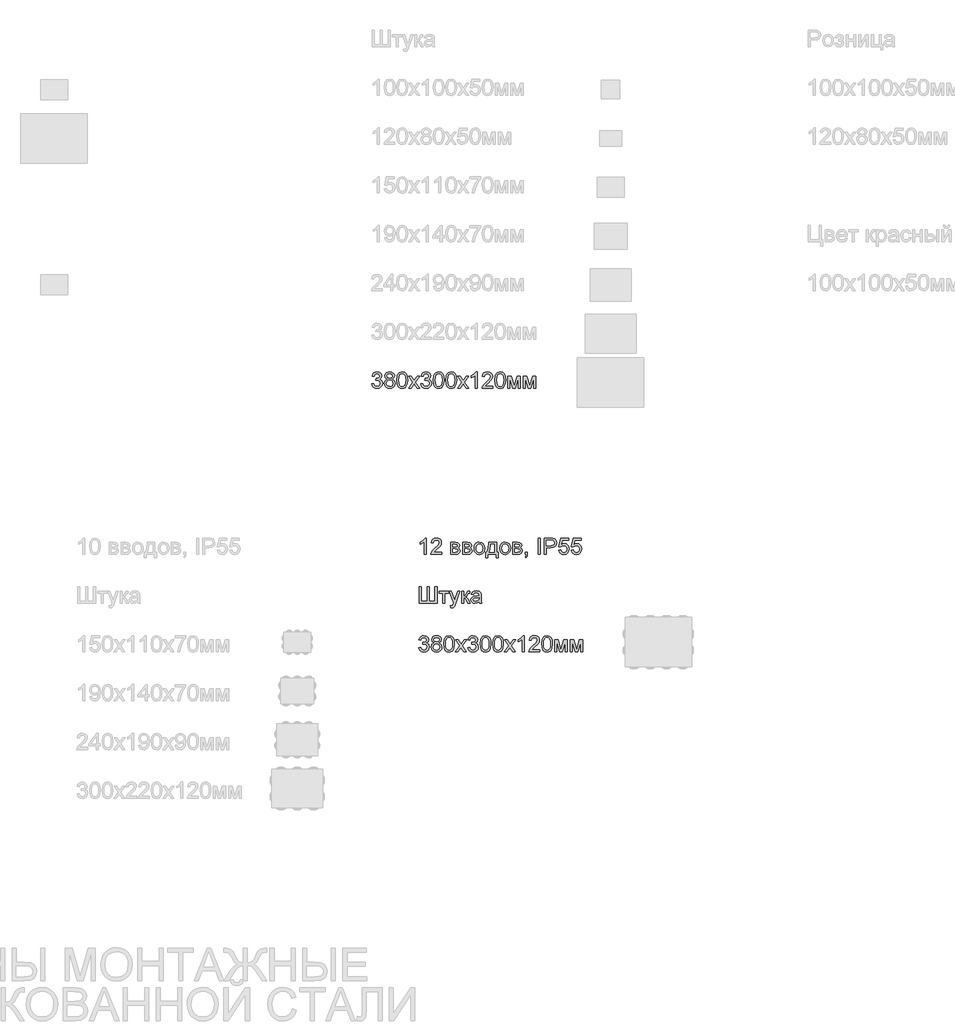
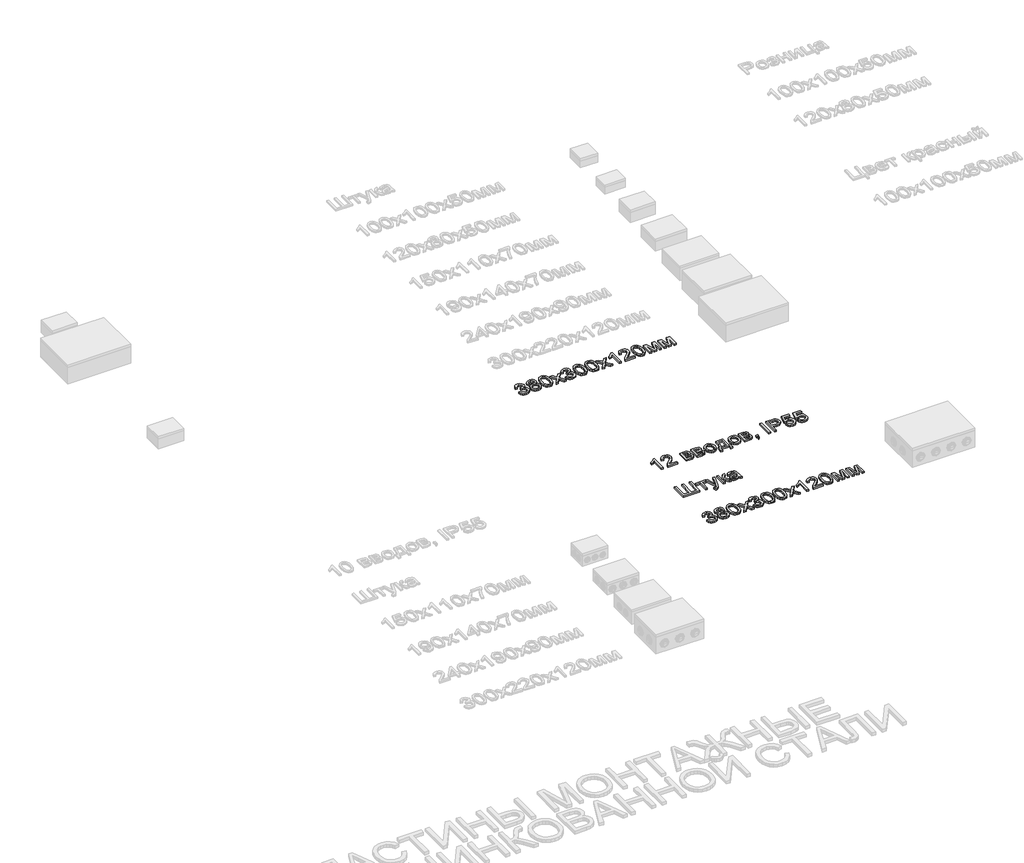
# One storey, part 27 of 98: 4 proxies.
"""IFC4 building model written with IfcOpenShell, lengths in millimetres."""

from ifc_helpers import new_model, si_unit, origin, origin_with_axes, place, context, project, spatial, polyline, outline, extrude, element, save

model = new_model("IFC4")

# Units and contexts
model_context = context("Model", 3, world=origin())
ifc_project = project(units=[si_unit("LENGTHUNIT", "METRE", prefix="MILLI")], contexts=[model_context])

# Site, building, storey
site = spatial("IfcSite", under=ifc_project)
building = spatial("IfcBuilding", under=site)
storey = spatial("IfcBuildingStorey", under=building, Name="Этаж 01", Elevation=0.0)

# Proxies
placement = place(None, origin())
element("IfcBuildingElementProxy", 1, Name="100", ObjectType="100", at=placement, inside=storey, context=model_context, shape_type="SweptSolid", body=[
    extrude(outline(polyline([(11962.3805285, -44110.8536412), (11974.9375673, -44109.2840114), (11981.8660115, -44122.5032377), (11994.8277205, -44126.5499397), (12003.4361592, -44125.1581195), (12010.0825605, -44120.9826588), (12015.7479433, -44107.1993467), (12010.1316115, -44094.2131123), (11995.8577901, -44089.0750271), (11987.0531476, -44090.4484532), (11988.4510992, -44077.8914145), (11990.4621875, -44078.0385673), (12004.7114834, -44074.4333237), (12009.4571612, -44069.8593242), (12011.0390537, -44063.3478129), (12006.4527915, -44053.5253636), (11994.6315167, -44049.6380772), (11982.6630892, -44053.5621518), (11976.5071971, -44065.3343757), (11963.9501584, -44063.7647458), (11967.6473724, -44052.4891627), (11974.2263288, -44044.0707964), (11983.2271749, -44038.8284779), (11994.1900584, -44037.0810385), (12009.3345338, -44040.5268665), (12019.9295353, -44049.9446456), (12023.5960925, -44062.6120489), (12020.1134763, -44074.188069), (12009.8127804, -44082.5022021), (12023.4979906, -44091.0861154), (12028.304982, -44107.4200759), (12025.9014863, -44119.6582836), (12018.6909992, -44129.8854031), (12007.8078235, -44136.8015846), (11994.3862621, -44139.1069785), (11982.2461562, -44137.1388098), (11972.3623933, -44131.2343038), (11965.4891314, -44122.2028008), (11962.3805285, -44110.8536412)])), origin_with_axes(), (0.0, 0.0, 1.0), 10.0),
    extrude(outline(polyline([(12057.5883889, -44082.2078965), (12046.1472588, -44074.4087982), (12042.4316507, -44062.2686924), (12044.4550016, -44052.4523745), (12050.5250546, -44044.3405765), (12059.9612277, -44038.895923), (12072.0829395, -44037.0810385), (12084.2782276, -44038.9388425), (12093.8370281, -44044.5122548), (12100.0174456, -44052.7528115), (12102.0775848, -44062.6120489), (12098.4110276, -44074.4455864), (12087.2887286, -44082.2078965), (12100.642845, -44092.0548713), (12105.2168445, -44108.3029927), (12102.9482389, -44120.3082085), (12096.142422, -44130.2287596), (12085.6332596, -44136.8874238), (12072.2546177, -44139.1069785), (12058.8759758, -44136.8782267), (12048.3668135, -44130.1919714), (12041.5609966, -44120.1763841), (12039.292391, -44107.9596362), (12044.0503314, -44091.33137), (12057.5883889, -44082.2078965)]), holes=[polyline([(12054.9886894, -44062.6365744), (12059.4400616, -44072.4958119), (12072.4017705, -44076.3217846), (12085.1059621, -44072.5203373), (12089.520546, -44063.2006601), (12084.9588093, -44053.5498891), (12072.2546177, -44049.6380772), (12059.513638, -44053.46405), (12054.9886894, -44062.6365744)]), polyline([(12051.8494297, -44107.5181778), (12053.9463571, -44116.9727451), (12061.3653107, -44124.0483421), (12072.3527196, -44126.5499397), (12080.8998446, -44125.2347616), (12087.3132541, -44121.2892272), (12092.6598057, -44107.9105853), (12087.1415758, -44094.274426), (12080.5810136, -44090.227724), (12071.9357867, -44088.8788234), (12063.5082233, -44090.2093299), (12057.1591932, -44094.2008496), (12051.8494297, -44107.5181778)])]), origin_with_axes(), (0.0, 0.0, 1.0), 10.0),
    extrude(outline(polyline([(12116.2042534, -44088.1185339), (12119.8953361, -44059.2152718), (12130.8582196, -44042.5502175), (12149.1664802, -44037.0810385), (12163.8327091, -44040.3184), (12173.9617267, -44049.65034), (12179.8478386, -44064.5127726), (12182.128707, -44088.1185339), (12178.4744125, -44116.8991687), (12167.5483172, -44133.6010113), (12159.3169576, -44137.7304867), (12149.1664802, -44139.1069785), (12136.1189321, -44136.7157455), (12126.2106437, -44129.5420466), (12118.705851, -44112.5520298), (12116.2042534, -44088.1185339)]), holes=[polyline([(12128.7612922, -44088.0940085), (12130.2328202, -44107.8462059), (12134.6474041, -44119.2781389), (12141.2202291, -44124.7319895), (12149.1664802, -44126.5499397), (12157.1127313, -44124.7258581), (12163.6855563, -44119.2536135), (12168.1001402, -44107.8155491), (12169.5716682, -44088.0940085), (12168.1491911, -44068.7863351), (12163.88176, -44057.2654973), (12157.3211978, -44051.5449322), (12149.0193274, -44049.6380772), (12141.1589154, -44051.3180717), (12134.8436078, -44056.358055), (12130.2818711, -44068.5962627), (12128.7612922, -44088.0940085)])]), origin_with_axes(), (0.0, 0.0, 1.0), 10.0),
    extrude(outline(polyline([(12188.4072263, -44137.5373486), (12215.2380865, -44100.4548435), (12189.9768562, -44063.7647458), (12205.0845435, -44063.7647458), (12217.2737002, -44081.4230816), (12222.9636084, -44089.7617402), (12227.8932272, -44082.9436605), (12241.7746411, -44063.7647458), (12256.8823284, -44063.7647458), (12230.3457738, -44100.4548435), (12255.9013097, -44137.5373486), (12240.7936225, -44137.5373486), (12225.4161551, -44115.2436997), (12222.5957264, -44111.1724723), (12203.5149136, -44137.5373486), (12188.4072263, -44137.5373486)])), origin_with_axes(), (0.0, 0.0, 1.0), 10.0),
    extrude(outline(polyline([(12263.749459, -44110.8536412), (12276.3064977, -44109.2840114), (12283.234942, -44122.5032377), (12296.1966509, -44126.5499397), (12304.8050896, -44125.1581195), (12311.451491, -44120.9826588), (12317.1168737, -44107.1993467), (12311.5005419, -44094.2131123), (12297.2267205, -44089.0750271), (12288.4220781, -44090.4484532), (12289.8200297, -44077.8914145), (12291.8311179, -44078.0385673), (12306.0804139, -44074.4333237), (12310.8260916, -44069.8593242), (12312.4079842, -44063.3478129), (12307.821722, -44053.5253636), (12296.0004472, -44049.6380772), (12284.0320196, -44053.5621518), (12277.8761276, -44065.3343757), (12265.3190888, -44063.7647458), (12269.0163029, -44052.4891627), (12275.5952592, -44044.0707964), (12284.5961053, -44038.8284779), (12295.5589888, -44037.0810385), (12310.7034643, -44040.5268665), (12321.2984657, -44049.9446456), (12324.965023, -44062.6120489), (12321.4824067, -44074.188069), (12311.1817109, -44082.5022021), (12324.8669211, -44091.0861154), (12329.6739125, -44107.4200759), (12327.2704168, -44119.6582836), (12320.0599297, -44129.8854031), (12309.176754, -44136.8015846), (12295.7551925, -44139.1069785), (12283.6150867, -44137.1388098), (12273.7313238, -44131.2343038), (12266.8580618, -44122.2028008), (12263.749459, -44110.8536412)])), origin_with_axes(), (0.0, 0.0, 1.0), 10.0),
    extrude(outline(polyline([(12340.6613214, -44088.1185339), (12344.3524041, -44059.2152718), (12355.3152876, -44042.5502175), (12373.6235482, -44037.0810385), (12388.2897771, -44040.3184), (12398.4187947, -44049.65034), (12404.3049066, -44064.5127726), (12406.5857749, -44088.1185339), (12402.9314805, -44116.8991687), (12392.0053852, -44133.6010113), (12383.7740256, -44137.7304867), (12373.6235482, -44139.1069785), (12360.5760001, -44136.7157455), (12350.6677117, -44129.5420466), (12343.162919, -44112.5520298), (12340.6613214, -44088.1185339)]), holes=[polyline([(12353.2183602, -44088.0940085), (12354.6898882, -44107.8462059), (12359.1044721, -44119.2781389), (12365.6772971, -44124.7319895), (12373.6235482, -44126.5499397), (12381.5697993, -44124.7258581), (12388.1426243, -44119.2536135), (12392.5572082, -44107.8155491), (12394.0287362, -44088.0940085), (12392.6062591, -44068.7863351), (12388.338828, -44057.2654973), (12381.7782657, -44051.5449322), (12373.4763954, -44049.6380772), (12365.6159834, -44051.3180717), (12359.3006758, -44056.358055), (12354.7389391, -44068.5962627), (12353.2183602, -44088.0940085)])]), origin_with_axes(), (0.0, 0.0, 1.0), 10.0),
    extrude(outline(polyline([(12417.5731839, -44088.1185339), (12421.2642666, -44059.2152718), (12432.22715, -44042.5502175), (12450.5354106, -44037.0810385), (12465.2016395, -44040.3184), (12475.3306571, -44049.65034), (12481.216769, -44064.5127726), (12483.4976374, -44088.1185339), (12479.8433429, -44116.8991687), (12468.9172477, -44133.6010113), (12460.685888, -44137.7304867), (12450.5354106, -44139.1069785), (12437.4878625, -44136.7157455), (12427.5795741, -44129.5420466), (12420.0747814, -44112.5520298), (12417.5731839, -44088.1185339)]), holes=[polyline([(12430.1302226, -44088.0940085), (12431.6017506, -44107.8462059), (12436.0163346, -44119.2781389), (12442.5891595, -44124.7319895), (12450.5354106, -44126.5499397), (12458.4816617, -44124.7258581), (12465.0544867, -44119.2536135), (12469.4690707, -44107.8155491), (12470.9405986, -44088.0940085), (12469.5181216, -44068.7863351), (12465.2506904, -44057.2654973), (12458.6901282, -44051.5449322), (12450.3882578, -44049.6380772), (12442.5278459, -44051.3180717), (12436.2125383, -44056.358055), (12431.6508016, -44068.5962627), (12430.1302226, -44088.0940085)])]), origin_with_axes(), (0.0, 0.0, 1.0), 10.0),
    extrude(outline(polyline([(12489.7761568, -44137.5373486), (12516.607017, -44100.4548435), (12491.3457866, -44063.7647458), (12506.4534739, -44063.7647458), (12518.6426307, -44081.4230816), (12524.3325389, -44089.7617402), (12529.2621576, -44082.9436605), (12543.1435716, -44063.7647458), (12558.2512588, -44063.7647458), (12531.7147042, -44100.4548435), (12557.2702402, -44137.5373486), (12542.1625529, -44137.5373486), (12526.7850855, -44115.2436997), (12523.9646569, -44111.1724723), (12504.8838441, -44137.5373486), (12489.7761568, -44137.5373486)])), origin_with_axes(), (0.0, 0.0, 1.0), 10.0),
    extrude(outline(polyline([(12612.2072848, -44137.5373486), (12599.650246, -44137.5373486), (12599.650246, -44059.25206), (12587.7553948, -44067.7256087), (12574.5361685, -44074.0654417), (12574.5361685, -44062.195116), (12592.942531, -44050.4474176), (12604.1138809, -44037.0810385), (12612.2072848, -44037.0810385), (12612.2072848, -44137.5373486)])), origin_with_axes(), (0.0, 0.0, 1.0), 10.0),
    extrude(outline(polyline([(12706.3850756, -44124.9803098), (12706.3850756, -44137.5373486), (12640.460622, -44137.5373486), (12641.8095227, -44128.879859), (12649.4369427, -44115.550268), (12665.1577666, -44100.9944038), (12686.8382789, -44080.074181), (12692.2584069, -44065.8494105), (12687.1448472, -44054.334704), (12673.7907308, -44049.6380772), (12659.8725286, -44054.2243394), (12654.5872906, -44066.9040055), (12642.0302519, -44065.3343757), (12645.0744754, -44053.1881385), (12651.6564974, -44044.316051), (12661.4329614, -44038.8897916), (12674.0605109, -44037.0810385), (12686.7800309, -44039.0921267), (12696.5381008, -44045.1253914), (12702.7461095, -44054.1385003), (12704.8154457, -44065.089121), (12702.5836283, -44076.9962349), (12695.1646747, -44089.308019), (12677.1752451, -44106.5126337), (12662.7297455, -44118.5914259), (12657.0643627, -44124.9803098), (12706.3850756, -44124.9803098)])), origin_with_axes(), (0.0, 0.0, 1.0), 10.0),
    extrude(outline(polyline([(12718.9421143, -44088.1185339), (12722.633197, -44059.2152718), (12733.5960805, -44042.5502175), (12751.9043411, -44037.0810385), (12766.57057, -44040.3184), (12776.6995876, -44049.65034), (12782.5856995, -44064.5127726), (12784.8665679, -44088.1185339), (12781.2122734, -44116.8991687), (12770.2861781, -44133.6010113), (12762.0548185, -44137.7304867), (12751.9043411, -44139.1069785), (12738.856793, -44136.7157455), (12728.9485046, -44129.5420466), (12721.4437119, -44112.5520298), (12718.9421143, -44088.1185339)]), holes=[polyline([(12731.4991531, -44088.0940085), (12732.9706811, -44107.8462059), (12737.385265, -44119.2781389), (12743.95809, -44124.7319895), (12751.9043411, -44126.5499397), (12759.8505922, -44124.7258581), (12766.4234172, -44119.2536135), (12770.8380011, -44107.8155491), (12772.3095291, -44088.0940085), (12770.887052, -44068.7863351), (12766.6196209, -44057.2654973), (12760.0590586, -44051.5449322), (12751.7571883, -44049.6380772), (12743.8967763, -44051.3180717), (12737.5814687, -44056.358055), (12733.019732, -44068.5962627), (12731.4991531, -44088.0940085)])]), origin_with_axes(), (0.0, 0.0, 1.0), 10.0),
    extrude(outline(polyline([(12798.9932365, -44063.7647458), (12820.6001723, -44063.7647458), (12837.252964, -44122.8220688), (12855.2056053, -44063.7647458), (12875.9050989, -44063.7647458), (12875.9050989, -44137.5373486), (12863.3480602, -44137.5373486), (12863.3480602, -44078.1366691), (12845.2973169, -44137.5373486), (12828.8162035, -44137.5373486), (12811.5502752, -44075.291715), (12811.5502752, -44137.5373486), (12798.9932365, -44137.5373486), (12798.9932365, -44063.7647458)])), origin_with_axes(), (0.0, 0.0, 1.0), 10.0),
    extrude(outline(polyline([(12894.7406571, -44063.7647458), (12916.3475929, -44063.7647458), (12933.0003846, -44122.8220688), (12950.9530259, -44063.7647458), (12971.6525195, -44063.7647458), (12971.6525195, -44137.5373486), (12959.0954808, -44137.5373486), (12959.0954808, -44078.1366691), (12941.0447375, -44137.5373486), (12924.5636242, -44137.5373486), (12907.2976959, -44075.291715), (12907.2976959, -44137.5373486), (12894.7406571, -44137.5373486), (12894.7406571, -44063.7647458)])), origin_with_axes(), (0.0, 0.0, 1.0), 10.0),
])
element("IfcBuildingElementProxy", 2, Name="100", ObjectType="100", at=placement, inside=storey, context=model_context, shape_type="SweptSolid", body=[
    extrude(outline(polyline([(12297.5391141, -45159.5121665), (12284.9820753, -45159.5121665), (12284.9820753, -45081.2268779), (12273.0872241, -45089.7004265), (12259.8679978, -45096.0402596), (12259.8679978, -45084.1699338), (12278.2743603, -45072.4222355), (12289.4457102, -45059.0558563), (12297.5391141, -45059.0558563), (12297.5391141, -45159.5121665)])), origin_with_axes(), (0.0, 0.0, 1.0), 10.0),
    extrude(outline(polyline([(12391.7169049, -45146.9551277), (12391.7169049, -45159.5121665), (12325.7924513, -45159.5121665), (12327.141352, -45150.8546768), (12334.768772, -45137.5250859), (12350.4895959, -45122.9692216), (12372.1701082, -45102.0489988), (12377.5902362, -45087.8242283), (12372.4766765, -45076.3095219), (12359.1225601, -45071.6128951), (12345.2043579, -45076.1991573), (12339.9191199, -45088.8788234), (12327.3620812, -45087.3091935), (12330.4063047, -45075.1629563), (12336.9883267, -45066.2908689), (12346.7647907, -45060.8646095), (12359.3923402, -45059.0558563), (12372.1118602, -45061.0669445), (12381.8699301, -45067.1002093), (12388.0779388, -45076.1133182), (12390.147275, -45087.0639389), (12387.9154576, -45098.9710528), (12380.496504, -45111.2828369), (12362.5070744, -45128.4874515), (12348.0615748, -45140.5662437), (12342.396192, -45146.9551277), (12391.7169049, -45146.9551277)])), origin_with_axes(), (0.0, 0.0, 1.0), 10.0),
    extrude(outline(polyline([(12446.6539495, -45085.7395637), (12474.3186755, -45085.7395637), (12489.4876764, -45087.4195581), (12498.0225387, -45093.5754502), (12501.5909941, -45104.3053417), (12499.432753, -45113.024145), (12492.9335045, -45119.2413507), (12501.3702649, -45126.0471676), (12504.7302538, -45137.8807051), (12502.6026696, -45147.4517684), (12497.5442921, -45154.1901403), (12489.5367274, -45158.1816599), (12478.5615812, -45159.5121665), (12446.6539495, -45159.5121665), (12446.6539495, -45085.7395637)]), holes=[polyline([(12459.2109882, -45146.9551277), (12474.6129811, -45146.9551277), (12488.2736659, -45144.6865221), (12492.173215, -45136.8506356), (12490.0272367, -45130.8051081), (12484.4354304, -45127.2857037), (12473.3867078, -45126.5499397), (12459.2109882, -45126.5499397), (12459.2109882, -45146.9551277)]), polyline([(12459.2109882, -45113.9929009), (12471.6208742, -45113.9929009), (12481.8602564, -45113.3552388), (12486.8389261, -45110.8045903), (12489.0339553, -45106.1938026), (12485.1834571, -45100.0379106), (12472.0132817, -45098.2966025), (12459.2109882, -45098.2966025), (12459.2109882, -45113.9929009)])]), origin_with_axes(), (0.0, 0.0, 1.0), 10.0),
    extrude(outline(polyline([(12520.4265522, -45085.7395637), (12548.0912783, -45085.7395637), (12563.2602792, -45087.4195581), (12571.7951415, -45093.5754502), (12575.3635968, -45104.3053417), (12573.2053558, -45113.024145), (12566.7061072, -45119.2413507), (12575.1428677, -45126.0471676), (12578.5028565, -45137.8807051), (12576.3752723, -45147.4517684), (12571.3168949, -45154.1901403), (12563.3093301, -45158.1816599), (12552.334184, -45159.5121665), (12520.4265522, -45159.5121665), (12520.4265522, -45085.7395637)]), holes=[polyline([(12532.983591, -45146.9551277), (12548.3855839, -45146.9551277), (12562.0462686, -45144.6865221), (12565.9458178, -45136.8506356), (12563.7998395, -45130.8051081), (12558.2080331, -45127.2857037), (12547.1593106, -45126.5499397), (12532.983591, -45126.5499397), (12532.983591, -45146.9551277)]), polyline([(12532.983591, -45113.9929009), (12545.393477, -45113.9929009), (12555.6328592, -45113.3552388), (12560.6115288, -45110.8045903), (12562.8065581, -45106.1938026), (12558.9560599, -45100.0379106), (12545.7858844, -45098.2966025), (12532.983591, -45098.2966025), (12532.983591, -45113.9929009)])]), origin_with_axes(), (0.0, 0.0, 1.0), 10.0),
    extrude(outline(polyline([(12591.0598953, -45122.6258651), (12593.7760907, -45104.8387706), (12601.9246769, -45092.3369141), (12611.9923808, -45086.2116789), (12624.0466475, -45084.1699338), (12637.2382828, -45086.656203), (12647.7750362, -45094.1150104), (12654.6820207, -45105.957745), (12656.9843488, -45121.5957955), (12652.9131214, -45143.9384953), (12641.0550585, -45156.5813732), (12624.0466475, -45161.0817963), (12610.6955968, -45158.6047242), (12600.1711061, -45151.1735079), (12593.337698, -45139.082453), (12591.0598953, -45122.6258651)]), holes=[polyline([(12603.6169341, -45122.6013396), (12605.070068, -45133.9658276), (12609.4294696, -45142.0622972), (12615.9900318, -45146.9091424), (12624.0466475, -45148.5247575), (12632.066475, -45146.8999454), (12638.6147746, -45142.025509), (12642.9741762, -45133.8217405), (12644.4273101, -45122.2089321), (12642.9649791, -45111.175538), (12638.5779864, -45103.189433), (12632.0204898, -45098.3425877), (12624.0466475, -45096.7269726), (12615.9900318, -45098.3364563), (12609.4294696, -45103.1649075), (12605.070068, -45111.242983), (12603.6169341, -45122.6013396)])]), origin_with_axes(), (0.0, 0.0, 1.0), 10.0),
    extrude(outline(polyline([(12682.0984264, -45085.7395637), (12729.1873218, -45085.7395637), (12729.1873218, -45146.9551277), (12738.6051008, -45146.9551277), (12738.6051008, -45179.9173545), (12726.0480621, -45179.9173545), (12726.0480621, -45159.5121665), (12674.2502772, -45159.5121665), (12674.2502772, -45179.9173545), (12661.6932384, -45179.9173545), (12661.6932384, -45146.9551277), (12669.5413876, -45146.9551277), (12679.2412096, -45123.0060098), (12682.0984264, -45085.7395637)]), holes=[polyline([(12693.0858353, -45098.2966025), (12690.1427793, -45126.905559), (12683.6680562, -45146.9551277), (12716.630283, -45146.9551277), (12716.630283, -45098.2966025), (12693.0858353, -45098.2966025)])]), origin_with_axes(), (0.0, 0.0, 1.0), 10.0),
    extrude(outline(polyline([(12749.5925098, -45122.6258651), (12752.3087052, -45104.8387706), (12760.4572914, -45092.3369141), (12770.5249953, -45086.2116789), (12782.579262, -45084.1699338), (12795.7708972, -45086.656203), (12806.3076507, -45094.1150104), (12813.2146351, -45105.957745), (12815.5169633, -45121.5957955), (12811.4457359, -45143.9384953), (12799.5876729, -45156.5813732), (12782.579262, -45161.0817963), (12769.2282113, -45158.6047242), (12758.7037205, -45151.1735079), (12751.8703125, -45139.082453), (12749.5925098, -45122.6258651)]), holes=[polyline([(12762.1495485, -45122.6013396), (12763.6026824, -45133.9658276), (12767.9620841, -45142.0622972), (12774.5226463, -45146.9091424), (12782.579262, -45148.5247575), (12790.5990895, -45146.8999454), (12797.147389, -45142.025509), (12801.5067907, -45133.8217405), (12802.9599245, -45122.2089321), (12801.4975936, -45111.175538), (12797.1106008, -45103.189433), (12790.5531042, -45098.3425877), (12782.579262, -45096.7269726), (12774.5226463, -45098.3364563), (12767.9620841, -45103.1649075), (12763.6026824, -45111.242983), (12762.1495485, -45122.6013396)])]), origin_with_axes(), (0.0, 0.0, 1.0), 10.0),
    extrude(outline(polyline([(12829.6436319, -45085.7395637), (12857.308358, -45085.7395637), (12872.4773589, -45087.4195581), (12881.0122212, -45093.5754502), (12884.5806765, -45104.3053417), (12882.4224355, -45113.024145), (12875.9231869, -45119.2413507), (12884.3599473, -45126.0471676), (12887.7199362, -45137.8807051), (12885.592352, -45147.4517684), (12880.5339746, -45154.1901403), (12872.5264098, -45158.1816599), (12861.5512636, -45159.5121665), (12829.6436319, -45159.5121665), (12829.6436319, -45085.7395637)]), holes=[polyline([(12842.2006707, -45146.9551277), (12857.6026635, -45146.9551277), (12871.2633483, -45144.6865221), (12875.1628975, -45136.8506356), (12873.0169191, -45130.8051081), (12867.4251128, -45127.2857037), (12856.3763902, -45126.5499397), (12842.2006707, -45126.5499397), (12842.2006707, -45146.9551277)]), polyline([(12842.2006707, -45113.9929009), (12854.6105567, -45113.9929009), (12864.8499389, -45113.3552388), (12869.8286085, -45110.8045903), (12872.0236378, -45106.1938026), (12868.1731395, -45100.0379106), (12855.0029641, -45098.2966025), (12842.2006707, -45098.2966025), (12842.2006707, -45113.9929009)])]), origin_with_axes(), (0.0, 0.0, 1.0), 10.0),
    extrude(outline(polyline([(12906.5554944, -45159.5121665), (12906.5554944, -45146.9551277), (12919.1125331, -45146.9551277), (12919.1125331, -45159.5121665), (12916.8561902, -45172.3512481), (12909.6947541, -45179.9173545), (12906.5554944, -45175.2084649), (12911.166282, -45169.7883369), (12912.8094883, -45159.5121665), (12906.5554944, -45159.5121665)])), origin_with_axes(), (0.0, 0.0, 1.0), 10.0),
    extrude(outline(polyline([(12985.0369867, -45159.5121665), (12985.0369867, -45059.0558563), (12997.5940254, -45059.0558563), (12997.5940254, -45159.5121665), (12985.0369867, -45159.5121665)])), origin_with_axes(), (0.0, 0.0, 1.0), 10.0),
    extrude(outline(polyline([(13022.708103, -45159.5121665), (13022.708103, -45059.0558563), (13059.9377609, -45059.0558563), (13074.9473463, -45060.0123495), (13087.1487658, -45064.7089763), (13095.0582287, -45074.421061), (13098.0503356, -45088.1185339), (13096.0300503, -45099.9582028), (13089.9691944, -45109.8235716), (13078.6353633, -45116.4822358), (13060.7961522, -45118.7017905), (13035.2651418, -45118.7017905), (13035.2651418, -45159.5121665), (13022.708103, -45159.5121665)]), holes=[polyline([(13035.2651418, -45106.1447517), (13061.5319162, -45106.1447517), (13080.0241178, -45101.533964), (13084.1260021, -45095.9850773), (13085.4932968, -45088.5599923), (13082.268198, -45078.1611946), (13073.7946494, -45072.4712864), (13061.2376106, -45071.6128951), (13035.2651418, -45071.6128951), (13035.2651418, -45106.1447517)])]), origin_with_axes(), (0.0, 0.0, 1.0), 10.0),
    extrude(outline(polyline([(13110.6073744, -45132.8284591), (13123.1644131, -45131.2588292), (13129.4919835, -45144.1960127), (13142.6131079, -45148.5247575), (13151.6139541, -45147.019507), (13158.3584573, -45142.5037555), (13162.5707062, -45135.4986692), (13163.9747891, -45126.5254142), (13158.7140766, -45111.6139307), (13152.1075291, -45107.5120464), (13142.8093117, -45106.1447517), (13131.7851146, -45108.3275182), (13124.734043, -45113.9929009), (13112.1770042, -45112.4232711), (13123.1644131, -45060.6254862), (13171.8229384, -45060.6254862), (13171.8229384, -45073.1825249), (13133.3179562, -45073.1825249), (13127.9468791, -45100.847251), (13136.9170684, -45095.4025974), (13146.3164534, -45093.5877129), (13158.0488233, -45095.8379245), (13167.7884991, -45102.5885591), (13174.3459957, -45112.8769922), (13176.5318279, -45125.7405993), (13174.5636592, -45138.2976381), (13168.6591532, -45149.0397923), (13157.3529132, -45158.0712953), (13142.564057, -45161.0817963), (13130.2308131, -45159.1473501), (13120.4052982, -45153.3440117), (13113.669992, -45144.3462312), (13110.6073744, -45132.8284591)])), origin_with_axes(), (0.0, 0.0, 1.0), 10.0),
    extrude(outline(polyline([(13187.5192368, -45132.8284591), (13200.0762756, -45131.2588292), (13206.4038459, -45144.1960127), (13219.5249704, -45148.5247575), (13228.5258166, -45147.019507), (13235.2703198, -45142.5037555), (13239.4825686, -45135.4986692), (13240.8866516, -45126.5254142), (13235.6259391, -45111.6139307), (13229.0193916, -45107.5120464), (13219.7211741, -45106.1447517), (13208.696977, -45108.3275182), (13201.6459054, -45113.9929009), (13189.0888667, -45112.4232711), (13200.0762756, -45060.6254862), (13248.7348008, -45060.6254862), (13248.7348008, -45073.1825249), (13210.2298187, -45073.1825249), (13204.8587415, -45100.847251), (13213.8289308, -45095.4025974), (13223.2283158, -45093.5877129), (13234.9606858, -45095.8379245), (13244.7003616, -45102.5885591), (13251.2578582, -45112.8769922), (13253.4436904, -45125.7405993), (13251.4755217, -45138.2976381), (13245.5710157, -45149.0397923), (13234.2647757, -45158.0712953), (13219.4759195, -45161.0817963), (13207.1426756, -45159.1473501), (13197.3171606, -45153.3440117), (13190.5818544, -45144.3462312), (13187.5192368, -45132.8284591)])), origin_with_axes(), (0.0, 0.0, 1.0), 10.0),
])
element("IfcBuildingElementProxy", 3, Name="100", ObjectType="100", at=placement, inside=storey, context=model_context, shape_type="SweptSolid", body=[
    extrude(outline(polyline([(12253.5894784, -45359.0558563), (12266.1465172, -45359.0558563), (12266.1465172, -45446.9551277), (12302.2480036, -45446.9551277), (12302.2480036, -45359.0558563), (12314.8050424, -45359.0558563), (12314.8050424, -45446.9551277), (12350.9065289, -45446.9551277), (12350.9065289, -45359.0558563), (12363.4635676, -45359.0558563), (12363.4635676, -45459.5121665), (12253.5894784, -45459.5121665), (12253.5894784, -45359.0558563)])), origin_with_axes(), (0.0, 0.0, 1.0), 10.0),
    extrude(outline(polyline([(12376.0206064, -45385.7395637), (12435.6665405, -45385.7395637), (12435.6665405, -45398.2966025), (12412.1220929, -45398.2966025), (12412.1220929, -45459.5121665), (12399.5650541, -45459.5121665), (12399.5650541, -45398.2966025), (12376.0206064, -45398.2966025), (12376.0206064, -45385.7395637)])), origin_with_axes(), (0.0, 0.0, 1.0), 10.0),
    extrude(outline(polyline([(12446.6539495, -45487.7655037), (12445.0843196, -45475.6744488), (12451.4609409, -45476.7780948), (12457.4206292, -45475.3924059), (12461.0749237, -45471.529645), (12464.508489, -45462.2835442), (12465.4895076, -45459.2423863), (12438.8058002, -45385.7395637), (12452.0495521, -45385.7395637), (12466.2007461, -45426.6970925), (12471.1303649, -45443.080104), (12476.0599836, -45428.6100789), (12490.6035852, -45385.7395637), (12503.7492351, -45385.7395637), (12478.0710719, -45461.278), (12471.400145, -45477.6610116), (12464.1160815, -45486.5147049), (12454.3304204, -45489.3351335), (12446.6539495, -45487.7655037)])), origin_with_axes(), (0.0, 0.0, 1.0), 10.0),
    extrude(outline(polyline([(12514.1480329, -45385.7395637), (12526.7050716, -45385.7395637), (12526.7050716, -45417.1321606), (12535.1173066, -45414.8758177), (12542.0089626, -45401.7301677), (12547.735659, -45390.3871396), (12552.7879051, -45386.6960569), (12561.9726922, -45385.7395637), (12564.3761879, -45385.7395637), (12564.3761879, -45398.3701789), (12560.9916736, -45398.2966025), (12554.860307, -45399.6209776), (12550.5438249, -45407.8860598), (12545.4793161, -45416.8255923), (12538.3791936, -45421.203388), (12546.3009192, -45426.0900872), (12554.0754921, -45436.3846517), (12567.5154476, -45459.5121665), (12553.2416262, -45459.5121665), (12540.0714508, -45436.875161), (12533.4495749, -45427.2979664), (12526.7050716, -45424.9803098), (12526.7050716, -45459.5121665), (12514.1480329, -45459.5121665), (12514.1480329, -45385.7395637)])), origin_with_axes(), (0.0, 0.0, 1.0), 10.0),
    extrude(outline(polyline([(12622.4524922, -45450.0943874), (12610.2755982, -45458.6047242), (12596.8233799, -45461.0817963), (12586.329546, -45459.5918742), (12578.5886957, -45455.122108), (12573.8154268, -45448.3346852), (12572.2243372, -45439.8917934), (12574.6278329, -45429.9589795), (12580.9431404, -45422.7484924), (12589.7355201, -45418.6282141), (12600.6003017, -45416.7397532), (12622.3789158, -45412.4232711), (12622.4524922, -45409.6273679), (12618.9944015, -45400.3567416), (12605.1129875, -45396.7269726), (12592.408796, -45399.1427311), (12586.3510058, -45407.7143815), (12573.793967, -45406.1447517), (12579.2263578, -45393.8820185), (12590.1647158, -45386.6960569), (12606.7316683, -45384.1699338), (12621.9497202, -45386.4017513), (12630.5458961, -45392.0058203), (12634.3963943, -45400.5284199), (12635.009531, -45411.5158288), (12635.009531, -45427.1385509), (12635.6471931, -45448.9539532), (12638.1487907, -45459.5121665), (12625.5917519, -45459.5121665), (12622.4524922, -45450.0943874)]), holes=[polyline([(12622.4524922, -45424.9803098), (12602.194457, -45428.8308081), (12591.3909891, -45430.8664218), (12586.4981586, -45434.1773597), (12584.7813759, -45439.0088766), (12588.5215095, -45445.8024308), (12599.4966557, -45448.5247575), (12612.2008473, -45445.5203879), (12620.3923531, -45438.2485871), (12622.3789158, -45428.5365025), (12622.4524922, -45424.9803098)])]), origin_with_axes(), (0.0, 0.0, 1.0), 10.0),
])
element("IfcBuildingElementProxy", 4, Name="100", ObjectType="100", at=placement, inside=storey, context=model_context, shape_type="SweptSolid", body=[
    extrude(outline(polyline([(12250.4502187, -45732.8284591), (12263.0072575, -45731.2588292), (12269.9357017, -45744.4780556), (12282.8974107, -45748.5247575), (12291.5058494, -45747.1329373), (12298.1522508, -45742.9574767), (12303.8176335, -45729.1741646), (12298.2013017, -45716.1879302), (12283.9274803, -45711.049845), (12275.1228379, -45712.4232711), (12276.5207894, -45699.8662323), (12278.5318777, -45700.0133851), (12292.7811736, -45696.4081416), (12297.5268514, -45691.8341421), (12299.1087439, -45685.3226308), (12294.5224817, -45675.5001815), (12282.701207, -45671.6128951), (12270.7327794, -45675.5369697), (12264.5768873, -45687.3091935), (12252.0198486, -45685.7395637), (12255.7170626, -45674.4639805), (12262.296019, -45666.0456142), (12271.2968651, -45660.8032958), (12282.2597486, -45659.0558563), (12297.404224, -45662.5016843), (12307.9992255, -45671.9194634), (12311.6657827, -45684.5868668), (12308.1831665, -45696.1628869), (12297.8824706, -45704.47702), (12311.5676808, -45713.0609332), (12316.3746722, -45729.3948938), (12313.9711765, -45741.6331015), (12306.7606894, -45751.860221), (12295.8775137, -45758.7764025), (12282.4559523, -45761.0817963), (12270.3158464, -45759.1136276), (12260.4320835, -45753.2091216), (12253.5588216, -45744.1776186), (12250.4502187, -45732.8284591)])), origin_with_axes(), (0.0, 0.0, 1.0), 10.0),
    extrude(outline(polyline([(12345.6580791, -45704.1827144), (12334.216949, -45696.3836161), (12330.5013409, -45684.2435102), (12332.5246918, -45674.4271923), (12338.5947448, -45666.3153943), (12348.0309179, -45660.8707408), (12360.1526297, -45659.0558563), (12372.3479178, -45660.9136604), (12381.9067183, -45666.4870726), (12388.0871358, -45674.7276293), (12390.147275, -45684.5868668), (12386.4807178, -45696.4204043), (12375.3584188, -45704.1827144), (12388.7125352, -45714.0296891), (12393.2865347, -45730.2778106), (12391.0179291, -45742.2830264), (12384.2121122, -45752.2035775), (12373.7029498, -45758.8622416), (12360.3243079, -45761.0817963), (12346.945666, -45758.8530446), (12336.4365037, -45752.1667893), (12329.6306868, -45742.151202), (12327.3620812, -45729.934454), (12332.1200216, -45713.3061879), (12345.6580791, -45704.1827144)]), holes=[polyline([(12339.9191199, -45729.4929957), (12342.0160473, -45738.9475629), (12349.4350009, -45746.02316), (12360.4224098, -45748.5247575), (12368.9695348, -45747.2095794), (12375.3829443, -45743.264045), (12380.7294959, -45729.8854031), (12375.211266, -45716.2492438), (12368.6507038, -45712.2025419), (12360.0054769, -45710.8536412), (12351.5779135, -45712.1841478), (12345.2288834, -45716.1756674), (12339.9191199, -45729.4929957)]), polyline([(12343.0583796, -45684.6113922), (12347.5097518, -45694.4706297), (12360.4714607, -45698.2966025), (12373.1756523, -45694.4951552), (12377.5902362, -45685.175478), (12373.0284995, -45675.524707), (12360.3243079, -45671.6128951), (12347.5833282, -45675.4388678), (12343.0583796, -45684.6113922)])]), origin_with_axes(), (0.0, 0.0, 1.0), 10.0),
    extrude(outline(polyline([(12404.2739436, -45710.0933518), (12407.9650263, -45681.1900897), (12418.9279098, -45664.5250353), (12437.2361704, -45659.0558563), (12451.9023993, -45662.2932179), (12462.0314169, -45671.6251578), (12467.9175288, -45686.4875904), (12470.1983972, -45710.0933518), (12466.5441027, -45738.8739865), (12455.6180074, -45755.5758291), (12447.3866478, -45759.7053045), (12437.2361704, -45761.0817963), (12424.1886223, -45758.6905633), (12414.2803339, -45751.5168644), (12406.7755412, -45734.5268476), (12404.2739436, -45710.0933518)]), holes=[polyline([(12416.8309824, -45710.0688263), (12418.3025104, -45729.8210238), (12422.7170943, -45741.2529568), (12429.2899193, -45746.7068073), (12437.2361704, -45748.5247575), (12445.1824215, -45746.700676), (12451.7552465, -45741.2284313), (12456.1698304, -45729.7903669), (12457.6413584, -45710.0688263), (12456.2188813, -45690.7611529), (12451.9514502, -45679.2403151), (12445.390888, -45673.5197501), (12437.0890176, -45671.6128951), (12429.2286056, -45673.2928895), (12422.913298, -45678.3328729), (12418.3515613, -45690.5710806), (12416.8309824, -45710.0688263)])]), origin_with_axes(), (0.0, 0.0, 1.0), 10.0),
    extrude(outline(polyline([(12476.4769165, -45759.5121665), (12503.3077767, -45722.4296613), (12478.0465464, -45685.7395637), (12493.1542337, -45685.7395637), (12505.3433904, -45703.3978995), (12511.0332986, -45711.736558), (12515.9629174, -45704.9184784), (12529.8443313, -45685.7395637), (12544.9520186, -45685.7395637), (12518.415464, -45722.4296613), (12543.9709999, -45759.5121665), (12528.8633127, -45759.5121665), (12513.4858453, -45737.2185176), (12510.6654166, -45733.1472901), (12491.5846038, -45759.5121665), (12476.4769165, -45759.5121665)])), origin_with_axes(), (0.0, 0.0, 1.0), 10.0),
    extrude(outline(polyline([(12551.8191492, -45732.8284591), (12564.3761879, -45731.2588292), (12571.3046322, -45744.4780556), (12584.2663411, -45748.5247575), (12592.8747798, -45747.1329373), (12599.5211812, -45742.9574767), (12605.1865639, -45729.1741646), (12599.5702321, -45716.1879302), (12585.2964107, -45711.049845), (12576.4917683, -45712.4232711), (12577.8897199, -45699.8662323), (12579.9008081, -45700.0133851), (12594.1501041, -45696.4081416), (12598.8957818, -45691.8341421), (12600.4776744, -45685.3226308), (12595.8914122, -45675.5001815), (12584.0701374, -45671.6128951), (12572.1017098, -45675.5369697), (12565.9458178, -45687.3091935), (12553.388779, -45685.7395637), (12557.0859931, -45674.4639805), (12563.6649494, -45666.0456142), (12572.6657956, -45660.8032958), (12583.628679, -45659.0558563), (12598.7731545, -45662.5016843), (12609.3681559, -45671.9194634), (12613.0347132, -45684.5868668), (12609.5520969, -45696.1628869), (12599.2514011, -45704.47702), (12612.9366113, -45713.0609332), (12617.7436027, -45729.3948938), (12615.340107, -45741.6331015), (12608.1296199, -45751.860221), (12597.2464442, -45758.7764025), (12583.8248827, -45761.0817963), (12571.6847769, -45759.1136276), (12561.801014, -45753.2091216), (12554.927752, -45744.1776186), (12551.8191492, -45732.8284591)])), origin_with_axes(), (0.0, 0.0, 1.0), 10.0),
    extrude(outline(polyline([(12628.7310116, -45710.0933518), (12632.4220943, -45681.1900897), (12643.3849778, -45664.5250353), (12661.6932384, -45659.0558563), (12676.3594673, -45662.2932179), (12686.4884849, -45671.6251578), (12692.3745968, -45686.4875904), (12694.6554652, -45710.0933518), (12691.0011707, -45738.8739865), (12680.0750754, -45755.5758291), (12671.8437158, -45759.7053045), (12661.6932384, -45761.0817963), (12648.6456903, -45758.6905633), (12638.7374019, -45751.5168644), (12631.2326092, -45734.5268476), (12628.7310116, -45710.0933518)]), holes=[polyline([(12641.2880504, -45710.0688263), (12642.7595784, -45729.8210238), (12647.1741623, -45741.2529568), (12653.7469873, -45746.7068073), (12661.6932384, -45748.5247575), (12669.6394895, -45746.700676), (12676.2123145, -45741.2284313), (12680.6268984, -45729.7903669), (12682.0984264, -45710.0688263), (12680.6759493, -45690.7611529), (12676.4085182, -45679.2403151), (12669.8479559, -45673.5197501), (12661.5460856, -45671.6128951), (12653.6856736, -45673.2928895), (12647.370366, -45678.3328729), (12642.8086293, -45690.5710806), (12641.2880504, -45710.0688263)])]), origin_with_axes(), (0.0, 0.0, 1.0), 10.0),
    extrude(outline(polyline([(12705.6428741, -45710.0933518), (12709.3339568, -45681.1900897), (12720.2968402, -45664.5250353), (12738.6051008, -45659.0558563), (12753.2713297, -45662.2932179), (12763.4003473, -45671.6251578), (12769.2864592, -45686.4875904), (12771.5673276, -45710.0933518), (12767.9130331, -45738.8739865), (12756.9869379, -45755.5758291), (12748.7555782, -45759.7053045), (12738.6051008, -45761.0817963), (12725.5575527, -45758.6905633), (12715.6492643, -45751.5168644), (12708.1444716, -45734.5268476), (12705.6428741, -45710.0933518)]), holes=[polyline([(12718.1999128, -45710.0688263), (12719.6714408, -45729.8210238), (12724.0860248, -45741.2529568), (12730.6588497, -45746.7068073), (12738.6051008, -45748.5247575), (12746.5513519, -45746.700676), (12753.1241769, -45741.2284313), (12757.5387609, -45729.7903669), (12759.0102888, -45710.0688263), (12757.5878118, -45690.7611529), (12753.3203806, -45679.2403151), (12746.7598184, -45673.5197501), (12738.457948, -45671.6128951), (12730.5975361, -45673.2928895), (12724.2822285, -45678.3328729), (12719.7204918, -45690.5710806), (12718.1999128, -45710.0688263)])]), origin_with_axes(), (0.0, 0.0, 1.0), 10.0),
    extrude(outline(polyline([(12777.845847, -45759.5121665), (12804.6767072, -45722.4296613), (12779.4154768, -45685.7395637), (12794.5231641, -45685.7395637), (12806.7123209, -45703.3978995), (12812.4022291, -45711.736558), (12817.3318478, -45704.9184784), (12831.2132618, -45685.7395637), (12846.320949, -45685.7395637), (12819.7843944, -45722.4296613), (12845.3399304, -45759.5121665), (12830.2322431, -45759.5121665), (12814.8547757, -45737.2185176), (12812.0343471, -45733.1472901), (12792.9535343, -45759.5121665), (12777.845847, -45759.5121665)])), origin_with_axes(), (0.0, 0.0, 1.0), 10.0),
    extrude(outline(polyline([(12900.276975, -45759.5121665), (12887.7199362, -45759.5121665), (12887.7199362, -45681.2268779), (12875.825085, -45689.7004265), (12862.6058587, -45696.0402596), (12862.6058587, -45684.1699338), (12881.0122212, -45672.4222355), (12892.1835711, -45659.0558563), (12900.276975, -45659.0558563), (12900.276975, -45759.5121665)])), origin_with_axes(), (0.0, 0.0, 1.0), 10.0),
    extrude(outline(polyline([(12994.4547658, -45746.9551277), (12994.4547658, -45759.5121665), (12928.5303122, -45759.5121665), (12929.8792129, -45750.8546768), (12937.5066329, -45737.5250859), (12953.2274568, -45722.9692216), (12974.9079691, -45702.0489988), (12980.3280971, -45687.8242283), (12975.2145374, -45676.3095219), (12961.860421, -45671.6128951), (12947.9422188, -45676.1991573), (12942.6569808, -45688.8788234), (12930.0999421, -45687.3091935), (12933.1441656, -45675.1629563), (12939.7261876, -45666.2908689), (12949.5026516, -45660.8646095), (12962.1302011, -45659.0558563), (12974.8497211, -45661.0669445), (12984.607791, -45667.1002093), (12990.8157997, -45676.1133182), (12992.8851359, -45687.0639389), (12990.6533185, -45698.9710528), (12983.2343649, -45711.2828369), (12965.2449353, -45728.4874515), (12950.7994357, -45740.5662437), (12945.1340529, -45746.9551277), (12994.4547658, -45746.9551277)])), origin_with_axes(), (0.0, 0.0, 1.0), 10.0),
    extrude(outline(polyline([(13007.0118045, -45710.0933518), (13010.7028872, -45681.1900897), (13021.6657707, -45664.5250353), (13039.9740313, -45659.0558563), (13054.6402602, -45662.2932179), (13064.7692778, -45671.6251578), (13070.6553897, -45686.4875904), (13072.9362581, -45710.0933518), (13069.2819636, -45738.8739865), (13058.3558683, -45755.5758291), (13050.1245087, -45759.7053045), (13039.9740313, -45761.0817963), (13026.9264832, -45758.6905633), (13017.0181948, -45751.5168644), (13009.5134021, -45734.5268476), (13007.0118045, -45710.0933518)]), holes=[polyline([(13019.5688433, -45710.0688263), (13021.0403713, -45729.8210238), (13025.4549552, -45741.2529568), (13032.0277802, -45746.7068073), (13039.9740313, -45748.5247575), (13047.9202824, -45746.700676), (13054.4931074, -45741.2284313), (13058.9076913, -45729.7903669), (13060.3792193, -45710.0688263), (13058.9567422, -45690.7611529), (13054.6893111, -45679.2403151), (13048.1287489, -45673.5197501), (13039.8268785, -45671.6128951), (13031.9664665, -45673.2928895), (13025.6511589, -45678.3328729), (13021.0894222, -45690.5710806), (13019.5688433, -45710.0688263)])]), origin_with_axes(), (0.0, 0.0, 1.0), 10.0),
    extrude(outline(polyline([(13087.0629267, -45685.7395637), (13108.6698625, -45685.7395637), (13125.3226542, -45744.7968867), (13143.2752955, -45685.7395637), (13163.9747891, -45685.7395637), (13163.9747891, -45759.5121665), (13151.4177504, -45759.5121665), (13151.4177504, -45700.111487), (13133.3670071, -45759.5121665), (13116.8858937, -45759.5121665), (13099.6199654, -45697.2665329), (13099.6199654, -45759.5121665), (13087.0629267, -45759.5121665), (13087.0629267, -45685.7395637)])), origin_with_axes(), (0.0, 0.0, 1.0), 10.0),
    extrude(outline(polyline([(13182.8103473, -45685.7395637), (13204.4172831, -45685.7395637), (13221.0700748, -45744.7968867), (13239.0227161, -45685.7395637), (13259.7222097, -45685.7395637), (13259.7222097, -45759.5121665), (13247.165171, -45759.5121665), (13247.165171, -45700.111487), (13229.1144277, -45759.5121665), (13212.6333144, -45759.5121665), (13195.3673861, -45697.2665329), (13195.3673861, -45759.5121665), (13182.8103473, -45759.5121665), (13182.8103473, -45685.7395637)])), origin_with_axes(), (0.0, 0.0, 1.0), 10.0),
])

save(model, "model.ifc")
